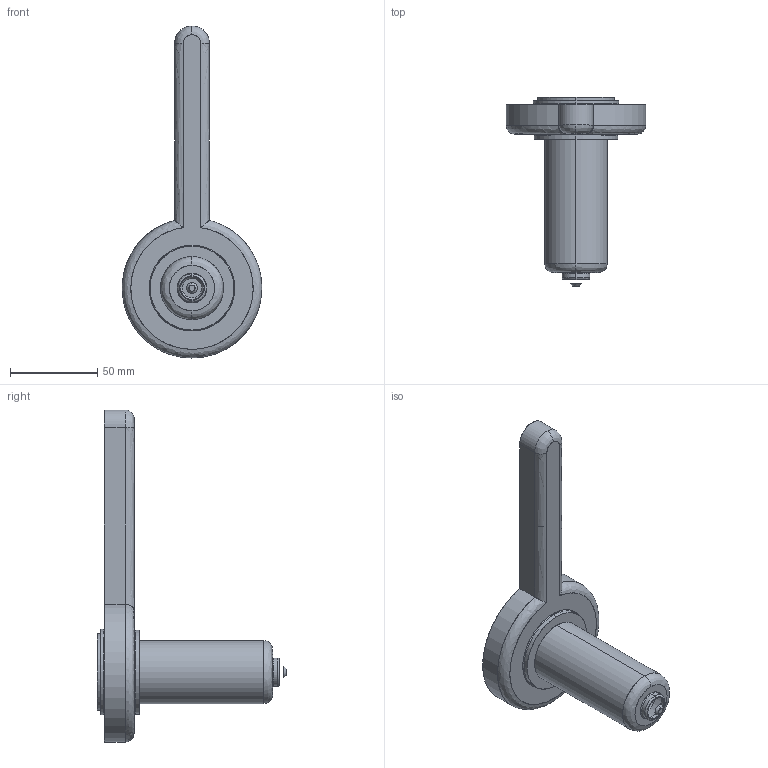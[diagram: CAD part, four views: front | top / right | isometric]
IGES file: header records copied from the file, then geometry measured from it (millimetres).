
Start section: SolidWorks IGES file using analytic representation for surfaces
Global section: file name: C:\Documents and Settings\ws-20\Desktop\TEM\Sede UGEP5002-S-A C-84 L-106 Ød-3.5.IGS; native system: SolidWorks 2012; preprocessor: SolidWorks 2012; author: ws-20; date: 120426.141845; units: millimetre
Bounding box: 79.96 x 108.21 x 190 mm (x, y, z)
Surface area: 30851.4 mm2 (no closed solid volume)
Topology: 0 solids, 0 shells, 44 faces, 952 edges, 952 vertices
Faces by surface type: revolution 27, bspline 17
